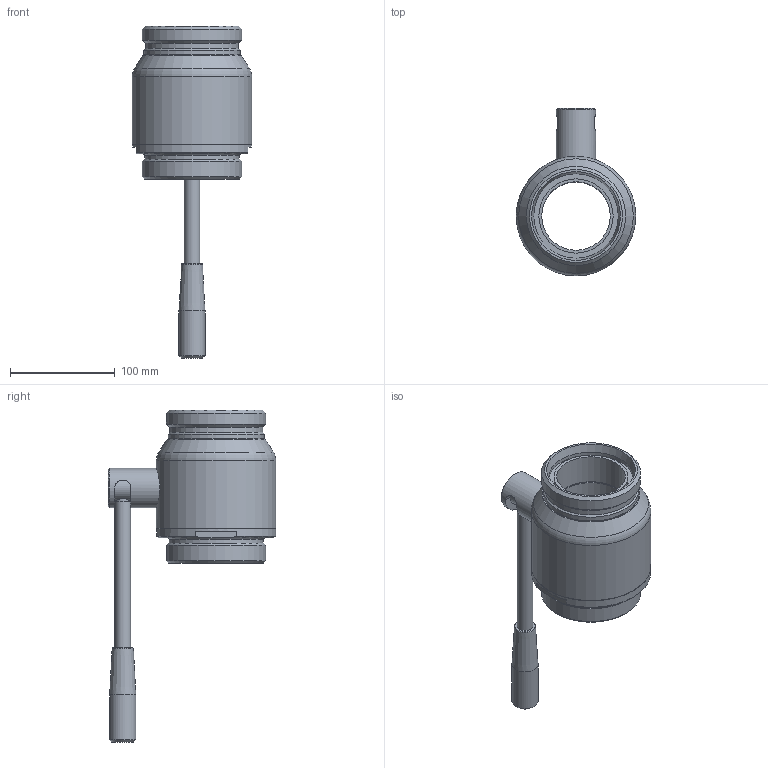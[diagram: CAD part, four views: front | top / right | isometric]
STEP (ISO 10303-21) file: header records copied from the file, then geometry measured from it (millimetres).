
FILE_DESCRIPTION(/* description */ ('Unknown'),/* implementation_level */ '2;1');
FILE_NAME(/* name */ '81SP-065.5',/* time_stamp */ '2020-04-02T14:02:14+02:00',/* author */ ('Unknown'),/* organization */ ('Unknown'),/* preprocessor_version */ 'ST-DEVELOPER v16.7',/* originating_system */ 'DEX',/* authorisation */ $);
FILE_SCHEMA (('AUTOMOTIVE_DESIGN {1 0 10303 214 3 1 1}'));
Length unit declared in the file: millimetre
Products named in the file (1): 81SP-065.5
Bounding box: 114.3 x 160.5 x 317.65 mm (x, y, z)
Volume: 731709.4 mm3; surface area: 198226 mm2
Topology: 2 solids, 5 shells, 159 faces, 335 edges, 213 vertices
Faces by surface type: cylinder 53, plane 53, cone 38, torus 12, sphere 3
Full cylindrical faces by diameter (mm): 11.835 x2, 14 x1, 15 x1, 15.1 x1, 20.5 x3, 24.5 x4, 24.7 x1, 24.8 x1, 25 x5, 25.3 x1, 28 x1, 30 x1, 31 x1, 37.7 x1, 38 x1, 65.5 x4, 71 x2, 79 x2, 79.55 x2, 80.8 x2, 87 x1, 87.3 x1, 89 x1, 90 x1, 92 x1, 95 x2, 106.3 x1, 107.835 x1, 111 x2, 114 x1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
Entity records: 4673 total; most frequent: CARTESIAN_POINT 685, DIRECTION 658, ORIENTED_EDGE 396, AXIS2_PLACEMENT_3D 317, FACE_BOUND 300, EDGE_LOOP 298, EDGE_CURVE 198, VERTEX_POINT 178
